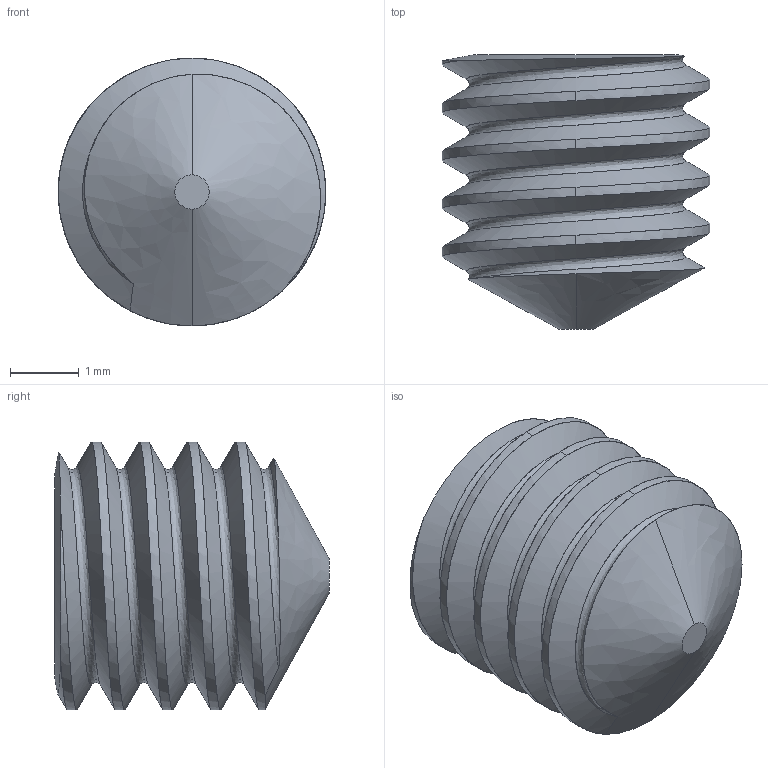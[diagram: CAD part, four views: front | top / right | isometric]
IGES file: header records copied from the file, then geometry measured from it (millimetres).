
Start section: 3D InterOp IGES (v. 2022 1.0.1), Spatial Corp. Copyright (c) 1999-2020.
Global section: file name: E544-F.igs; native system: Spatial Corp.; preprocessor: 3D InterOp GENERIC/IGES 3.0; author: Noname; organization: Noname; date: 20251209.115412; units: millimetre
Bounding box: 3.91 x 4 x 3.91 mm (x, y, z)
Surface area: 89.3 mm2 (no closed solid volume)
Topology: 0 solids, 0 shells, 25 faces, 314 edges, 314 vertices
Faces by surface type: revolution 14, extrusion 8, bspline 3
